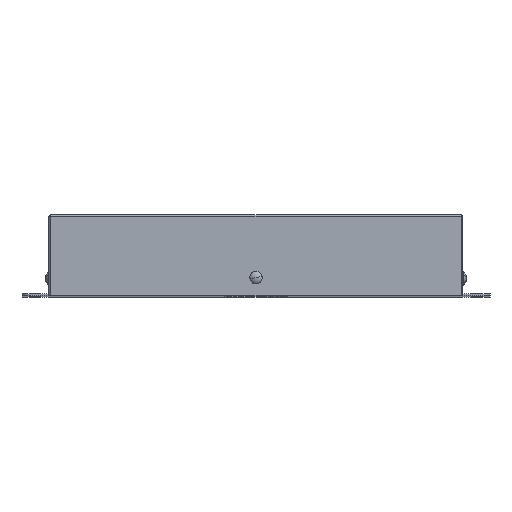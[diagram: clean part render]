
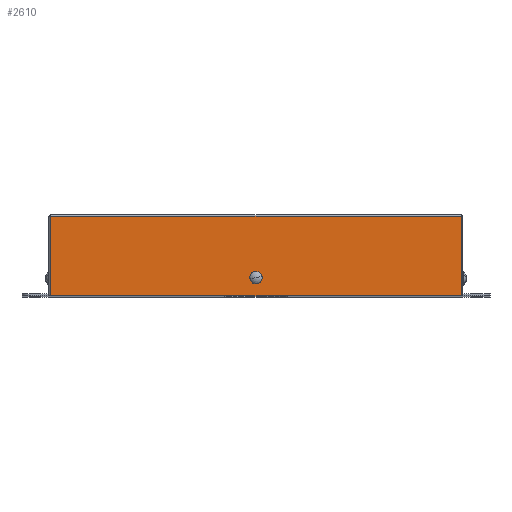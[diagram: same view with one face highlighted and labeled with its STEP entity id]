
A CAD part, top view. The second image highlights one B-rep face of the part: STEP entity #2610.
In plain terms, the highlighted planar face has unit normal (0, 0, 1).
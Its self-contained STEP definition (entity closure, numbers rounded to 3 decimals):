
#64 = DIRECTION ( 'NONE',  ( 0., -1., 0. ) ) ;
#198 = DIRECTION ( 'NONE',  ( 0., 0., 1. ) ) ;
#207 = LINE ( 'NONE', #3123, #2469 ) ;
#303 = ORIENTED_EDGE ( 'NONE', *, *, #5078, .T. ) ;
#329 = FACE_OUTER_BOUND ( 'NONE', #3546, .T. ) ;
#361 = DIRECTION ( 'NONE',  ( -1., 0., 0. ) ) ;
#364 = CIRCLE ( 'NONE', #2084, 3.45 ) ;
#374 = AXIS2_PLACEMENT_3D ( 'NONE', #2404, #4639, #1160 ) ;
#682 = CARTESIAN_POINT ( 'NONE',  ( -114., 0., 265. ) ) ;
#793 = ORIENTED_EDGE ( 'NONE', *, *, #3595, .T. ) ;
#798 = CARTESIAN_POINT ( 'NONE',  ( -114., 0., 265. ) ) ;
#818 = CIRCLE ( 'NONE', #2176, 3.45 ) ;
#843 = VERTEX_POINT ( 'NONE', #3532 ) ;
#886 = LINE ( 'NONE', #3860, #3095 ) ;
#986 = VERTEX_POINT ( 'NONE', #798 ) ;
#998 = VECTOR ( 'NONE', #5437, 1000. ) ;
#1160 = DIRECTION ( 'NONE',  ( 0., -1., 0. ) ) ;
#1467 = LINE ( 'NONE', #682, #998 ) ;
#1606 = PLANE ( 'NONE',  #374 ) ;
#1667 = CARTESIAN_POINT ( 'NONE',  ( -0.649, 13.388, 265. ) ) ;
#2084 = AXIS2_PLACEMENT_3D ( 'NONE', #3292, #198, #2385 ) ;
#2090 = CARTESIAN_POINT ( 'NONE',  ( -115., 44., 265. ) ) ;
#2176 = AXIS2_PLACEMENT_3D ( 'NONE', #4378, #3947, #64 ) ;
#2190 = EDGE_CURVE ( 'NONE', #5335, #843, #5529, .T. ) ;
#2205 = VERTEX_POINT ( 'NONE', #1667 ) ;
#2385 = DIRECTION ( 'NONE',  ( 0., -1., 0. ) ) ;
#2404 = CARTESIAN_POINT ( 'NONE',  ( -115., 0., 265. ) ) ;
#2469 = VECTOR ( 'NONE', #4848, 1000. ) ;
#2610 = ADVANCED_FACE ( 'NONE', ( #2909, #329 ), #1606, .T. ) ;
#2909 = FACE_BOUND ( 'NONE', #2920, .T. ) ;
#2920 = EDGE_LOOP ( 'NONE', ( #3363, #3995 ) ) ;
#3018 = ORIENTED_EDGE ( 'NONE', *, *, #3342, .T. ) ;
#3095 = VECTOR ( 'NONE', #4338, 1000. ) ;
#3123 = CARTESIAN_POINT ( 'NONE',  ( 114., 0., 265. ) ) ;
#3292 = CARTESIAN_POINT ( 'NONE',  ( 0., 10., 265. ) ) ;
#3342 = EDGE_CURVE ( 'NONE', #986, #3955, #886, .T. ) ;
#3363 = ORIENTED_EDGE ( 'NONE', *, *, #5003, .F. ) ;
#3532 = CARTESIAN_POINT ( 'NONE',  ( -114., 44., 265. ) ) ;
#3546 = EDGE_LOOP ( 'NONE', ( #3908, #303, #3018, #793 ) ) ;
#3547 = CARTESIAN_POINT ( 'NONE',  ( 114., 44., 265. ) ) ;
#3595 = EDGE_CURVE ( 'NONE', #3955, #5335, #207, .T. ) ;
#3821 = VECTOR ( 'NONE', #361, 1000. ) ;
#3860 = CARTESIAN_POINT ( 'NONE',  ( -115., 0., 265. ) ) ;
#3908 = ORIENTED_EDGE ( 'NONE', *, *, #2190, .T. ) ;
#3947 = DIRECTION ( 'NONE',  ( 0., 0., 1. ) ) ;
#3955 = VERTEX_POINT ( 'NONE', #4954 ) ;
#3995 = ORIENTED_EDGE ( 'NONE', *, *, #4703, .F. ) ;
#4338 = DIRECTION ( 'NONE',  ( 1., 0., 0. ) ) ;
#4378 = CARTESIAN_POINT ( 'NONE',  ( 0., 10., 265. ) ) ;
#4614 = CARTESIAN_POINT ( 'NONE',  ( 0.649, 6.612, 265. ) ) ;
#4639 = DIRECTION ( 'NONE',  ( 0., 0., 1. ) ) ;
#4703 = EDGE_CURVE ( 'NONE', #4783, #2205, #364, .T. ) ;
#4783 = VERTEX_POINT ( 'NONE', #4614 ) ;
#4848 = DIRECTION ( 'NONE',  ( 0., 1., 0. ) ) ;
#4954 = CARTESIAN_POINT ( 'NONE',  ( 114., 0., 265. ) ) ;
#5003 = EDGE_CURVE ( 'NONE', #2205, #4783, #818, .T. ) ;
#5078 = EDGE_CURVE ( 'NONE', #843, #986, #1467, .T. ) ;
#5335 = VERTEX_POINT ( 'NONE', #3547 ) ;
#5437 = DIRECTION ( 'NONE',  ( 0., -1., 0. ) ) ;
#5529 = LINE ( 'NONE', #2090, #3821 ) ;
